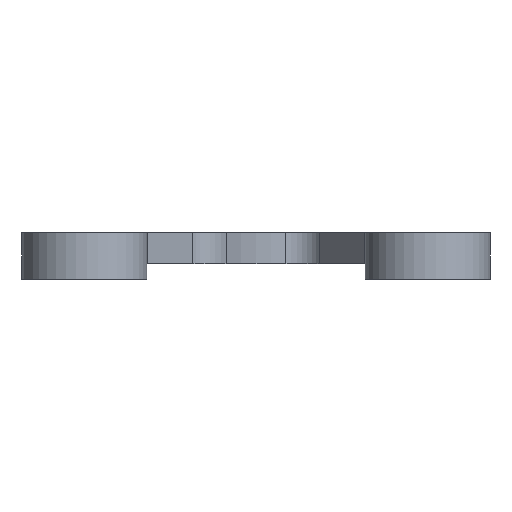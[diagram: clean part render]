
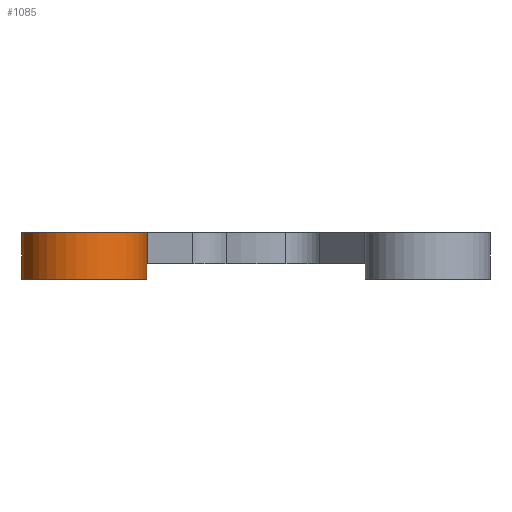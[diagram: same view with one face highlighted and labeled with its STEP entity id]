
A CAD part, front view. The second image highlights one B-rep face of the part: STEP entity #1085.
In plain terms, the highlighted cylindrical face has radius 20 mm (diameter 40 mm), a partial arc.
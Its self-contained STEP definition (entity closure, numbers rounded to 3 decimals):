
#31=CYLINDRICAL_SURFACE('',#1209,20.);
#114=FACE_OUTER_BOUND('',#186,.T.);
#186=EDGE_LOOP('',(#826,#827,#828,#829));
#272=LINE('',#1840,#337);
#273=LINE('',#1841,#338);
#337=VECTOR('',#1439,10.);
#338=VECTOR('',#1440,10.);
#389=CIRCLE('',#1161,20.);
#429=CIRCLE('',#1210,20.);
#479=VERTEX_POINT('',#1704);
#480=VERTEX_POINT('',#1705);
#525=VERTEX_POINT('',#1811);
#528=VERTEX_POINT('',#1825);
#586=EDGE_CURVE('',#479,#480,#389,.T.);
#643=EDGE_CURVE('',#480,#528,#272,.T.);
#644=EDGE_CURVE('',#525,#479,#273,.T.);
#645=EDGE_CURVE('',#528,#525,#429,.T.);
#826=ORIENTED_EDGE('',*,*,#643,.F.);
#827=ORIENTED_EDGE('',*,*,#586,.F.);
#828=ORIENTED_EDGE('',*,*,#644,.F.);
#829=ORIENTED_EDGE('',*,*,#645,.F.);
#1085=ADVANCED_FACE('',(#114),#31,.T.);
#1161=AXIS2_PLACEMENT_3D('',#1706,#1326,#1327);
#1209=AXIS2_PLACEMENT_3D('',#1839,#1437,#1438);
#1210=AXIS2_PLACEMENT_3D('',#1842,#1441,#1442);
#1326=DIRECTION('center_axis',(0.,0.,1.));
#1327=DIRECTION('ref_axis',(1.,0.,0.));
#1437=DIRECTION('center_axis',(0.,0.,-1.));
#1438=DIRECTION('ref_axis',(-0.591,-0.806,0.));
#1439=DIRECTION('',(0.,0.,-1.));
#1440=DIRECTION('',(0.,0.,1.));
#1441=DIRECTION('center_axis',(0.,0.,-1.));
#1442=DIRECTION('ref_axis',(1.,0.,0.));
#1704=CARTESIAN_POINT('',(-54.394,-55.009,0.));
#1705=CARTESIAN_POINT('',(-36.116,-68.413,0.));
#1706=CARTESIAN_POINT('Origin',(-55.,-75.,0.));
#1811=CARTESIAN_POINT('',(-54.394,-55.009,-15.));
#1825=CARTESIAN_POINT('',(-36.116,-68.413,-15.));
#1839=CARTESIAN_POINT('Origin',(-55.,-75.,0.));
#1840=CARTESIAN_POINT('',(-36.116,-68.413,0.));
#1841=CARTESIAN_POINT('',(-54.394,-55.009,0.));
#1842=CARTESIAN_POINT('Origin',(-55.,-75.,-15.));
